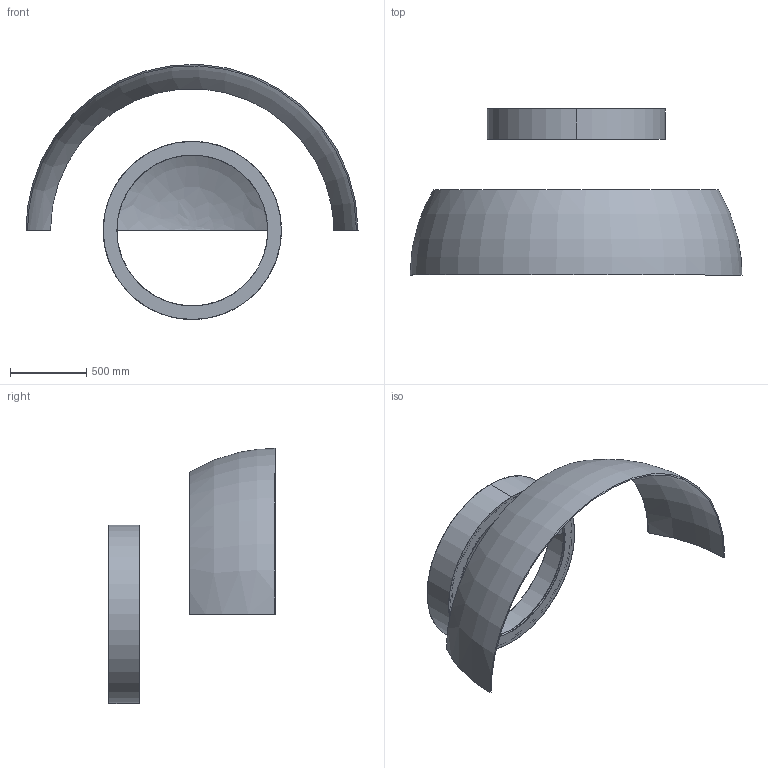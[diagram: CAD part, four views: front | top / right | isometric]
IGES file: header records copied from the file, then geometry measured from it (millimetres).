
Start section: SolidWorks IGES file using analytic representation for surfaces
Global section: file name: C:\Users\Stagiaire\Desktop\Rendu 3D\COUPOLE\3164_COUPOLE_100\3164_COUPOLE_100.IGS; native system: SolidWorks 2014; preprocessor: SolidWorks 2014; author: Stagiaire; date: 141006.162010; units: millimetre
Bounding box: 2180 x 1091.59 x 1674.88 mm (x, y, z)
Surface area: 7250838.1 mm2 (no closed solid volume)
Topology: 0 solids, 0 shells, 26 faces, 600 edges, 598 vertices
Faces by surface type: revolution 22, bspline 4
